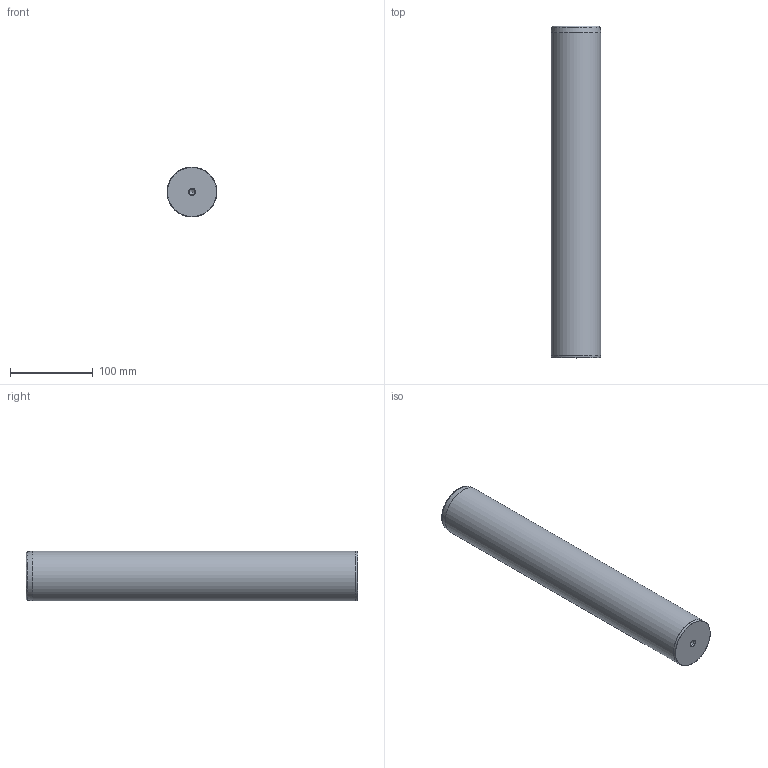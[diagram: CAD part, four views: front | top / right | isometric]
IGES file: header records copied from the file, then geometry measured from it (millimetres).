
Start section: Missler Software BP 521, 31674 Labege Cedex, France Tel   : +33 (0)5 61 00 03 00 Fax   : +33 (0)5 61 00 03 03 Email : sup.topsolid@topsolid.com
Global section: file name: D:\Cuma\D14-2\D14_60400.igs; native system: TopSolid v605250 Missler Software; preprocessor: IGES preprocessor v100000; date: 030120.200242; units: millimetre
Bounding box: 59.92 x 400 x 60 mm (x, y, z)
Surface area: 81887.7 mm2 (no closed solid volume)
Topology: 0 solids, 0 shells, 14 faces, 145 edges, 136 vertices
Faces by surface type: bspline 14
